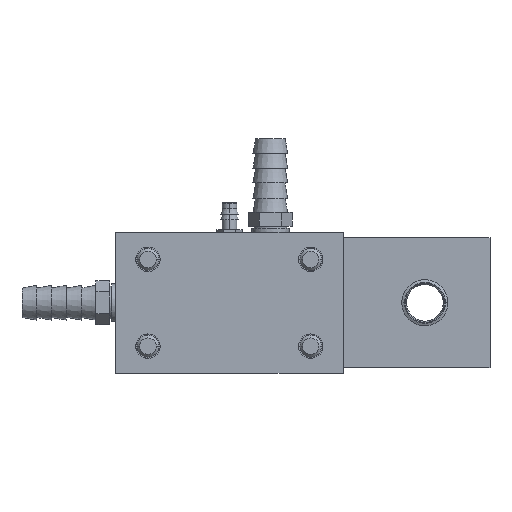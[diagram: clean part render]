
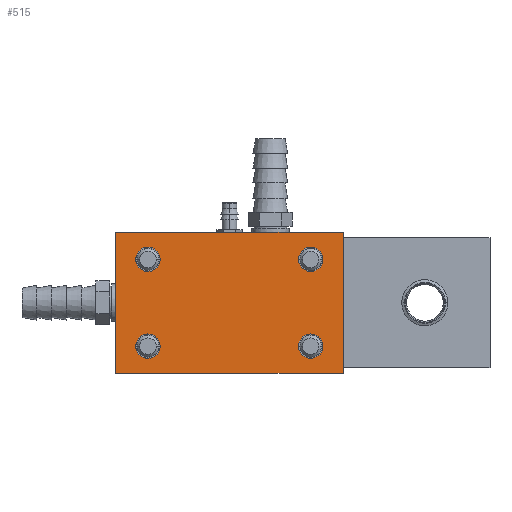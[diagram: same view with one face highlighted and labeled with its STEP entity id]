
A CAD part, left-side view. The second image highlights one B-rep face of the part: STEP entity #515.
In plain terms, the highlighted planar face has unit normal (-1, 0, 0).
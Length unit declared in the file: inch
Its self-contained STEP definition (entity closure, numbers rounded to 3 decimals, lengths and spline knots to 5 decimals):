
#250=CARTESIAN_POINT('',(-3.1875,-0.935,-0.5));
#251=DIRECTION('',(1.,0.,0.));
#252=DIRECTION('',(0.,-1.,0.));
#253=AXIS2_PLACEMENT_3D('',#250,#251,#252);
#255=CARTESIAN_POINT('',(-3.1875,-0.935,-0.5));
#256=DIRECTION('',(1.,0.,0.));
#257=DIRECTION('',(0.,1.,0.));
#258=AXIS2_PLACEMENT_3D('',#255,#256,#257);
#260=CARTESIAN_POINT('',(-3.1875,-0.935,0.5));
#261=DIRECTION('',(1.,0.,0.));
#262=DIRECTION('',(0.,-1.,0.));
#263=AXIS2_PLACEMENT_3D('',#260,#261,#262);
#265=CARTESIAN_POINT('',(-3.1875,-0.935,0.5));
#266=DIRECTION('',(1.,0.,0.));
#267=DIRECTION('',(0.,1.,0.));
#268=AXIS2_PLACEMENT_3D('',#265,#266,#267);
#270=CARTESIAN_POINT('',(-3.1875,0.94,-0.5));
#271=DIRECTION('',(1.,0.,0.));
#272=DIRECTION('',(0.,-1.,0.));
#273=AXIS2_PLACEMENT_3D('',#270,#271,#272);
#275=CARTESIAN_POINT('',(-3.1875,0.94,-0.5));
#276=DIRECTION('',(1.,0.,0.));
#277=DIRECTION('',(0.,1.,0.));
#278=AXIS2_PLACEMENT_3D('',#275,#276,#277);
#280=CARTESIAN_POINT('',(-3.1875,0.94,0.5));
#281=DIRECTION('',(1.,0.,0.));
#282=DIRECTION('',(0.,-1.,0.));
#283=AXIS2_PLACEMENT_3D('',#280,#281,#282);
#285=CARTESIAN_POINT('',(-3.1875,0.94,0.5));
#286=DIRECTION('',(1.,0.,0.));
#287=DIRECTION('',(0.,1.,0.));
#288=AXIS2_PLACEMENT_3D('',#285,#286,#287);
#318=DIRECTION('',(0.,-1.,0.));
#319=VECTOR('',#318,2.625);
#320=CARTESIAN_POINT('',(-3.1875,1.315,0.8125));
#321=LINE('',#320,#319);
#326=DIRECTION('',(0.,0.,-1.));
#327=VECTOR('',#326,1.625);
#328=CARTESIAN_POINT('',(-3.1875,-1.31,0.8125));
#329=LINE('',#328,#327);
#338=DIRECTION('',(0.,1.,0.));
#339=VECTOR('',#338,2.625);
#340=CARTESIAN_POINT('',(-3.1875,-1.31,-0.8125));
#341=LINE('',#340,#339);
#354=DIRECTION('',(0.,0.,1.));
#355=VECTOR('',#354,1.625);
#356=CARTESIAN_POINT('',(-3.1875,1.315,-0.8125));
#357=LINE('',#356,#355);
#368=CARTESIAN_POINT('',(-3.1875,1.315,-0.8125));
#369=VERTEX_POINT('',#368);
#370=CARTESIAN_POINT('',(-3.1875,1.315,0.8125));
#371=VERTEX_POINT('',#370);
#374=CARTESIAN_POINT('',(-3.1875,-1.31,-0.8125));
#375=VERTEX_POINT('',#374);
#376=CARTESIAN_POINT('',(-3.1875,-1.31,0.8125));
#377=VERTEX_POINT('',#376);
#378=CARTESIAN_POINT('',(-3.1875,-1.07563,-0.5));
#380=VERTEX_POINT('',#378);
#382=CARTESIAN_POINT('',(-3.1875,-0.79438,-0.5));
#384=VERTEX_POINT('',#382);
#386=CARTESIAN_POINT('',(-3.1875,-1.07563,0.5));
#388=VERTEX_POINT('',#386);
#390=CARTESIAN_POINT('',(-3.1875,-0.79438,0.5));
#392=VERTEX_POINT('',#390);
#394=CARTESIAN_POINT('',(-3.1875,0.79938,-0.5));
#396=VERTEX_POINT('',#394);
#398=CARTESIAN_POINT('',(-3.1875,1.08063,-0.5));
#400=VERTEX_POINT('',#398);
#402=CARTESIAN_POINT('',(-3.1875,0.79938,0.5));
#404=VERTEX_POINT('',#402);
#406=CARTESIAN_POINT('',(-3.1875,1.08063,0.5));
#408=VERTEX_POINT('',#406);
#478=CARTESIAN_POINT('',(-3.1875,0.0025,0.));
#479=DIRECTION('',(-1.,0.,0.));
#480=DIRECTION('',(0.,1.,0.));
#481=AXIS2_PLACEMENT_3D('',#478,#479,#480);
#482=PLANE('',#481);
#484=ORIENTED_EDGE('',*,*,#483,.T.);
#486=ORIENTED_EDGE('',*,*,#485,.T.);
#488=ORIENTED_EDGE('',*,*,#487,.T.);
#490=ORIENTED_EDGE('',*,*,#489,.T.);
#491=EDGE_LOOP('',(#484,#486,#488,#490));
#492=FACE_OUTER_BOUND('',#491,.F.);
#494=ORIENTED_EDGE('',*,*,#493,.F.);
#496=ORIENTED_EDGE('',*,*,#495,.F.);
#497=EDGE_LOOP('',(#494,#496));
#498=FACE_BOUND('',#497,.F.);
#500=ORIENTED_EDGE('',*,*,#499,.F.);
#502=ORIENTED_EDGE('',*,*,#501,.F.);
#503=EDGE_LOOP('',(#500,#502));
#504=FACE_BOUND('',#503,.F.);
#506=ORIENTED_EDGE('',*,*,#505,.F.);
#508=ORIENTED_EDGE('',*,*,#507,.F.);
#509=EDGE_LOOP('',(#506,#508));
#510=FACE_BOUND('',#509,.F.);
#511=ORIENTED_EDGE('',*,*,#419,.F.);
#512=ORIENTED_EDGE('',*,*,#472,.F.);
#513=EDGE_LOOP('',(#511,#512));
#514=FACE_BOUND('',#513,.F.);
#254=CIRCLE('',#253,0.14063);
#259=CIRCLE('',#258,0.14063);
#264=CIRCLE('',#263,0.14063);
#269=CIRCLE('',#268,0.14063);
#274=CIRCLE('',#273,0.14063);
#279=CIRCLE('',#278,0.14063);
#284=CIRCLE('',#283,0.14063);
#289=CIRCLE('',#288,0.14063);
#419=EDGE_CURVE('',#380,#384,#254,.T.);
#472=EDGE_CURVE('',#384,#380,#259,.T.);
#483=EDGE_CURVE('',#371,#377,#321,.T.);
#485=EDGE_CURVE('',#377,#375,#329,.T.);
#487=EDGE_CURVE('',#375,#369,#341,.T.);
#489=EDGE_CURVE('',#369,#371,#357,.T.);
#493=EDGE_CURVE('',#388,#392,#264,.T.);
#495=EDGE_CURVE('',#392,#388,#269,.T.);
#499=EDGE_CURVE('',#396,#400,#274,.T.);
#501=EDGE_CURVE('',#400,#396,#279,.T.);
#505=EDGE_CURVE('',#404,#408,#284,.T.);
#507=EDGE_CURVE('',#408,#404,#289,.T.);
#515=ADVANCED_FACE('',(#492,#498,#504,#510,#514),#482,.T.);
